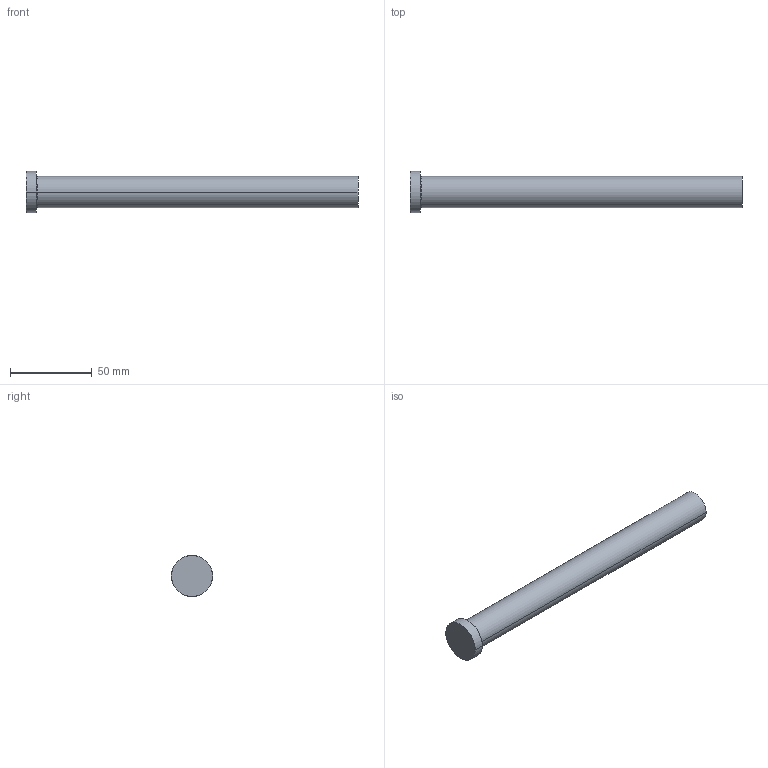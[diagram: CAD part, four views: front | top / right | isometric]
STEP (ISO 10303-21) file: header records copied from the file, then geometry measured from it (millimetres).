
FILE_DESCRIPTION (( 'STEP AP214' ), '1' );
FILE_NAME ('P41-8.STEP', '2020-03-12T12:17:24', ( '' ), ( '' ), 'SwSTEP 2.0', 'SolidWorks 2018', '' );
FILE_SCHEMA (( 'AUTOMOTIVE_DESIGN' ));
Length unit declared in the file: inch
Products named in the file (1): P41-8
Bounding box: 203.2 x 25.4 x 25.4 mm (x, y, z)
Volume: 59256.3 mm3; surface area: 13264.4 mm2
Topology: 1 solids, 1 shells, 13 faces, 24 edges, 14 vertices
Faces by surface type: cone 4, cylinder 4, plane 3, torus 2
Entity records: 366 total; most frequent: DIRECTION 68, CARTESIAN_POINT 52, ORIENTED_EDGE 48, AXIS2_PLACEMENT_3D 30, EDGE_CURVE 24, CIRCLE 16, VERTEX_POINT 14, EDGE_LOOP 14
